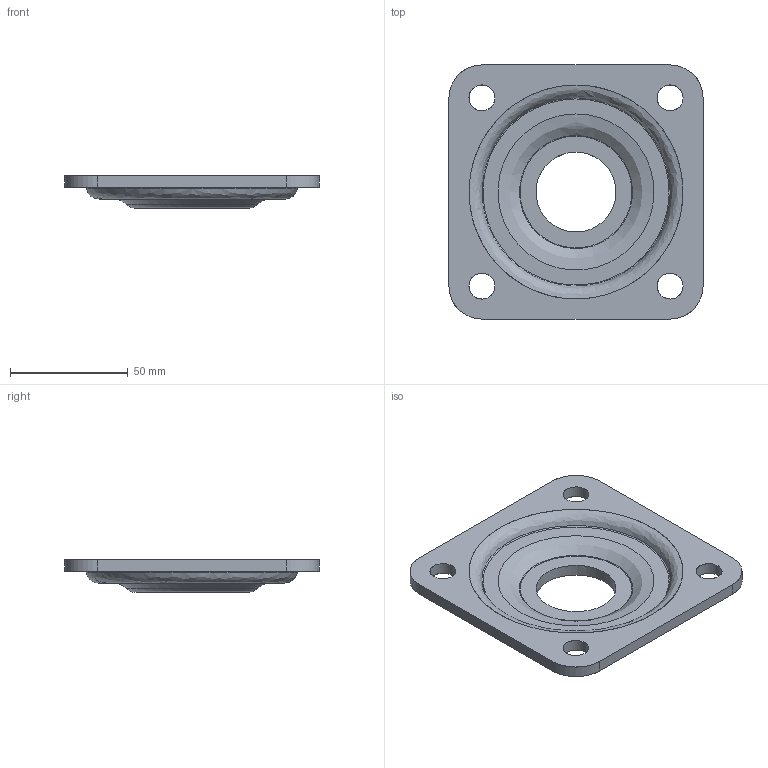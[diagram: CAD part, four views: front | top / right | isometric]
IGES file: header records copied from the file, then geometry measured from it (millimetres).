
Start section: JAMA-IS VERSION  1.0
Global section: file name: E:\tools-models\その他メーカー2\INOAC車輪\7月\HP-100WJ\HP-100WJ-10.igs; native system: CAM-TOOL; preprocessor: C3out Version 11.1.1.50212 (2015/02/12); author: NONE; organization: NONE; date: 200704.164743; units: millimetre
Bounding box: 108 x 108 x 14 mm (x, y, z)
Surface area: 25392 mm2 (no closed solid volume)
Topology: 0 solids, 0 shells, 27 faces, 343 edges, 344 vertices
Faces by surface type: bspline 27
